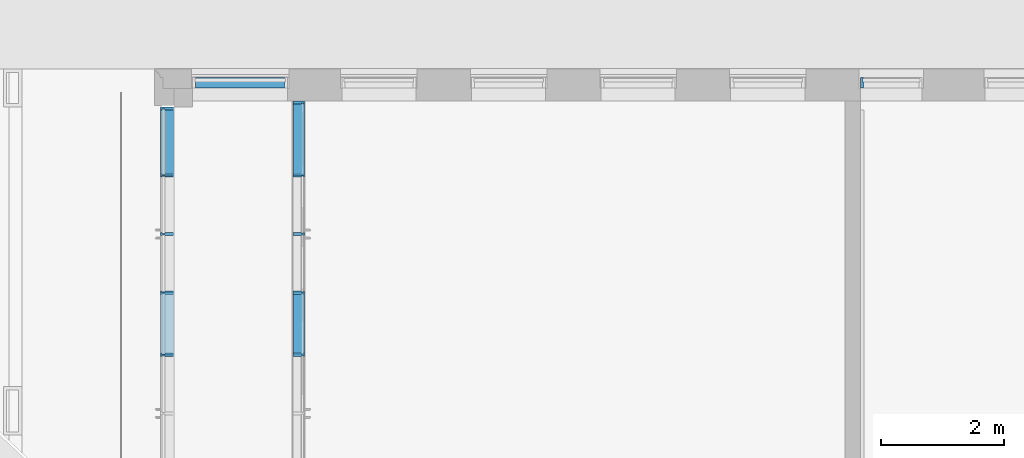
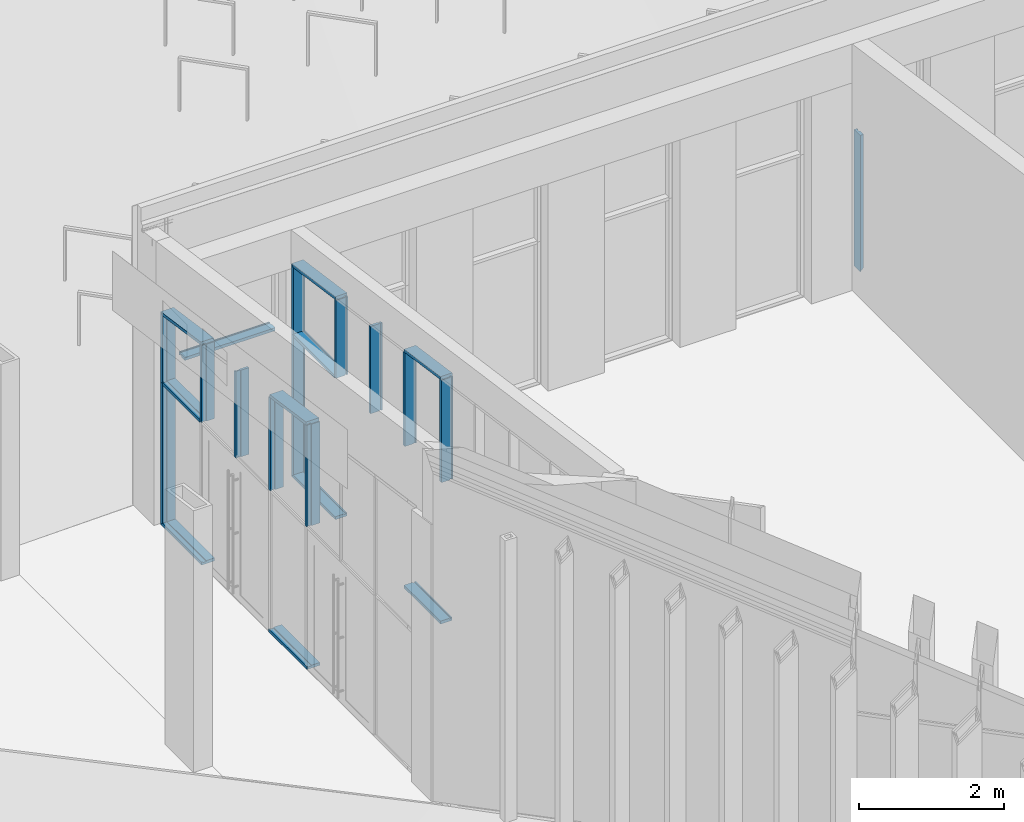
# One storey, part 67 of 246: 24 members, 4 elements without a shape of their own.
"""IFC2X3 building model written with IfcOpenShell, lengths in millimetres."""

from ifc_helpers import new_model, entity, si_unit, converted_unit, derived_unit, money_unit, direction, frame, origin_with_axes, place, context, subcontext, project, spatial, faceted_brep, material, type_object, element, aggregate, save


model = new_model("IFC2X3")

# Units and contexts
model_context = context("Model", 3, precision=0.01, world=origin_with_axes(), true_north=direction((0.0, 1.0)))
body_context = subcontext(model_context, "Body", "Model", "MODEL_VIEW")
ifc_project = project(units=[si_unit("LENGTHUNIT", "METRE", prefix="MILLI"), si_unit("AREAUNIT", "SQUARE_METRE"), si_unit("VOLUMEUNIT", "CUBIC_METRE"), converted_unit("PLANEANGLEUNIT", "DEGREE", entity("IfcPlaneAngleMeasure", 0.0174532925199), si_unit("PLANEANGLEUNIT", "RADIAN"), dimensions=[0, 0, 0, 0, 0, 0, 0]), si_unit("SOLIDANGLEUNIT", "STERADIAN"), money_unit("EUR"), converted_unit("TIMEUNIT", "Year", entity("IfcTimeMeasure", 31556926.0), si_unit("TIMEUNIT", "SECOND"), dimensions=[0, 0, 1, 0, 0, 0, 0]), si_unit("MASSUNIT", "GRAM", prefix="KILO"), si_unit("THERMODYNAMICTEMPERATUREUNIT", "DEGREE_CELSIUS"), si_unit("LUMINOUSINTENSITYUNIT", "LUMEN"), si_unit("ENERGYUNIT", "JOULE", prefix="MEGA"), derived_unit("THERMALCONDUCTANCEUNIT", [(si_unit("POWERUNIT", "WATT"), 1), (si_unit("LENGTHUNIT", "METRE"), -1), (si_unit("THERMODYNAMICTEMPERATUREUNIT", "KELVIN"), -1)]), derived_unit("SPECIFICHEATCAPACITYUNIT", [(si_unit("ENERGYUNIT", "JOULE"), 1), (si_unit("MASSUNIT", "GRAM", prefix="KILO"), -1), (si_unit("THERMODYNAMICTEMPERATUREUNIT", "KELVIN"), -1)]), derived_unit("MASSDENSITYUNIT", [(si_unit("MASSUNIT", "GRAM", prefix="KILO"), 1), (si_unit("VOLUMEUNIT", "CUBIC_METRE"), -1)])], contexts=[model_context])

# Site, building, storey
site_placement = place(None, origin_with_axes())
site = spatial("IfcSite", under=ifc_project, at=site_placement, Name="L.Koidula tn 11b", CompositionType="ELEMENT")
building_placement = place(site_placement, origin_with_axes())
building = spatial("IfcBuilding", under=site, at=building_placement, Name="Rakvere Riigigümnaasium", CompositionType="ELEMENT")
storey_placement = place(building_placement, origin_with_axes())
storey = spatial("IfcBuildingStorey", under=building, at=storey_placement, Name="1.korrus 0,00", CompositionType="ELEMENT", Elevation=0.0)

# Curtain wall, member
curtain_wall_type = type_object("IfcCurtainWallType", Name="Curtain Wall Type", PredefinedType="NOTDEFINED")
curtain_wall_1_placement = place(storey_placement, frame((15499.784937, 71934.4519938, -4.35310838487e-05), z_axis=(0.0, 0.0, 1.0), x_axis=(1.0, 0.0, 0.0)))
curtain_wall_1 = element("IfcCurtainWall", 1, at=curtain_wall_1_placement, inside=storey, type_object=curtain_wall_type, Name="KLF-08-01")
ifc_material = material(Name="Alumiiniumprofiil (RAL 7021)")
member_type_1 = type_object("IfcMemberType", Name="Transom Frame 50 x 170", PredefinedType="MULLION")
member_1_placement = place(curtain_wall_1_placement, frame((-769.750531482, 0.0, 2400.00004353), z_axis=(1.0, 0.0, 0.0), x_axis=(0.0, 0.0, 1.0)))
member_1 = element("IfcMember", 2, at=member_1_placement, type_object=member_type_1, material=ifc_material, Name="KLF-08-40-Profiilid", ObjectType="MULLION", context=body_context, shape_type="Brep", body=[
    faceted_brep([(-12.0, 26.0, 1489.50106295), (-12.0, -26.0, 1489.50106298), (-25.0, -26.0, 1489.50106298), (-25.0, -46.0, 1489.50106299), (25.0, -46.0, 1489.50106299), (25.0, -26.0, 1489.50106298), (12.0, -26.0, 1489.50106298), (12.0, 26.0, 1489.50106295), (25.0, 26.0, 1489.50106295), (25.0, 124.0, 1489.50106289), (-25.0, 124.0, 1489.50106289), (-25.0, 26.0, 1489.50106295), (-12.0, 26.0, 50.0), (-12.0, -26.0, 50.0), (-25.0, -26.0, 50.0), (-25.0, -46.0, 50.0), (25.0, -46.0, 50.0), (25.0, -26.0, 50.0), (12.0, -26.0, 50.0), (12.0, 26.0, 50.0), (25.0, 26.0, 50.0), (25.0, 124.0, 50.0), (-25.0, 124.0, 50.0), (-25.0, 26.0, 50.0)], [[[0, 1, 2, 3, 4, 5, 6, 7, 8, 9, 10, 11]], [[0, 12, 13, 1]], [[1, 13, 14, 2]], [[14, 15, 3, 2]], [[4, 3, 15, 16]], [[17, 5, 4, 16]], [[5, 17, 18, 6]], [[7, 6, 18, 19]], [[8, 7, 19, 20]], [[8, 20, 21, 9]], [[10, 9, 21, 22]], [[11, 10, 22, 23]], [[11, 23, 12, 0]], [[13, 12, 23, 22, 21, 20, 19, 18, 17, 16, 15, 14]]]),
])
aggregate(curtain_wall_1, [member_1])

curtain_wall_2_placement = place(storey_placement, frame((26049.5354659, 71934.4519938, 100.0), z_axis=(0.0, 0.0, 1.0), x_axis=(1.0, 0.0, 0.0)))
curtain_wall_2 = element("IfcCurtainWall", 3, at=curtain_wall_2_placement, inside=storey, type_object=curtain_wall_type, Name="KLF-08-03")
member_type_2 = type_object("IfcMemberType", Name="Boundary Frame 50 x 170", PredefinedType="MULLION")
member_2_placement = place(curtain_wall_2_placement, frame((-500.000038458, 0.0, 0.0), z_axis=(0.0, 0.0, 1.0), x_axis=(-1.0, 0.0, 0.0)))
member_2 = element("IfcMember", 4, at=member_2_placement, type_object=member_type_2, material=ifc_material, Name="KLF-08-47-Profiilid", ObjectType="MULLION", context=body_context, shape_type="Brep", body=[
    faceted_brep([(-37.0, 26.0, 2300.00007713), (-37.0, -26.0, 2300.00007713), (-50.0, -26.0, 2300.00007713), (-50.0, -46.0, 2300.00007713), (0.0, -46.0, 2300.00007713), (0.0, 124.0, 2300.00007713), (-50.0, 124.0, 2300.00007713), (-50.0, 26.0, 2300.00007713), (-37.0, 26.0, 37.0), (-37.0, -26.0, 37.0), (-50.0, -26.0, 50.0), (-50.0, -46.0, 50.0), (0.0, -46.0, 0.0), (0.0, 124.0, 0.0), (-50.0, 124.0, 50.0), (-50.0, 26.0, 50.0)], [[[0, 1, 2, 3, 4, 5, 6, 7]], [[1, 0, 8, 9]], [[10, 2, 1, 9]], [[2, 10, 11, 3]], [[4, 3, 11, 12]], [[5, 4, 12, 13]], [[6, 5, 13, 14]], [[15, 7, 6, 14]], [[0, 7, 15, 8]], [[8, 15, 14, 13, 12, 11, 10, 9]]]),
])
aggregate(curtain_wall_2, [member_2])

# Curtain wall, members
curtain_wall_3_placement = place(storey_placement, frame((14260.0344055, 70945.4519938, -0.000165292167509), z_axis=(0.0, 0.0, 1.0), x_axis=(1.0, 0.0, 0.0)))
curtain_wall_3 = element("IfcCurtainWall", 5, at=curtain_wall_3_placement, inside=storey, type_object=curtain_wall_type, Name="KLF-01A")
member_type_3 = type_object("IfcMemberType", Name="Boundary Frame 50 x 208", PredefinedType="MULLION")
member_3_placement = place(curtain_wall_3_placement, frame((0.0, 555.0, 0.0), z_axis=(0.0, -1.0, 0.0), x_axis=(0.0, 0.0, 1.0)))
member_3 = element("IfcMember", 6, at=member_3_placement, type_object=member_type_3, material=ifc_material, Name="KLF-42 Profiilid", ObjectType="MULLION", context=body_context, shape_type="Brep", body=[
    faceted_brep([(37.0, -27.0, 1135.0), (37.0, 27.0, 1135.0), (50.0, 27.0, 1135.0), (50.0, 48.0, 1135.0), (0.0, 48.0, 1135.0), (0.0, -160.0, 1135.0), (50.0, -160.0, 1135.0), (50.0, -27.0, 1135.0), (37.0, -27.0, 37.0), (37.0, 27.0, 37.0), (50.0, 27.0, 50.0), (50.0, 48.0, 50.0), (0.0, 48.0, 0.0), (0.0, -160.0, 0.0), (50.0, -160.0, 50.0), (50.0, -27.0, 50.0)], [[[0, 1, 2, 3, 4, 5, 6, 7]], [[1, 0, 8, 9]], [[10, 2, 1, 9]], [[2, 10, 11, 3]], [[4, 3, 11, 12]], [[5, 4, 12, 13]], [[6, 5, 13, 14]], [[15, 7, 6, 14]], [[0, 7, 15, 8]], [[8, 15, 14, 13, 12, 11, 10, 9]]]),
])
member_4_placement = place(curtain_wall_3_placement, frame((0.0, 555.0, 0.0), z_axis=(0.0, 0.0, 1.0), x_axis=(0.0, 1.0, 0.0)))
member_4 = element("IfcMember", 7, at=member_4_placement, type_object=member_type_3, material=ifc_material, Name="KLF-61 Profiilid", ObjectType="MULLION", context=body_context, shape_type="Brep", body=[
    faceted_brep([(-37.0, -27.0, 2400.00026018), (-50.0, -27.0, 2400.00026018), (-50.0, -160.0, 2400.00026018), (0.0, -160.0, 2400.00026018), (0.0, 48.0, 2400.00026018), (-50.0, 48.0, 2400.00026018), (-50.0, 27.0, 2400.00026018), (-37.0, 27.0, 2400.00026018), (-37.0, -27.0, 37.0), (-50.0, -27.0, 50.0), (-50.0, -160.0, 50.0), (0.0, -160.0, 0.0), (0.0, 48.0, 0.0), (-50.0, 48.0, 50.0), (-50.0, 27.0, 50.0), (-37.0, 27.0, 37.0)], [[[0, 1, 2, 3, 4, 5, 6, 7]], [[0, 8, 9, 1]], [[9, 10, 2, 1]], [[2, 10, 11, 3]], [[3, 11, 12, 4]], [[4, 12, 13, 5]], [[6, 5, 13, 14]], [[14, 15, 7, 6]], [[7, 15, 8, 0]], [[8, 15, 14, 13, 12, 11, 10, 9]]]),
])
member_5_placement = place(curtain_wall_3_placement, frame((0.0, 555.0, 2400.00026018), z_axis=(0.0, 0.0, 1.0), x_axis=(0.0, 1.0, 0.0)))
member_5 = element("IfcMember", 8, at=member_5_placement, type_object=member_type_3, material=ifc_material, Name="KLF-60 Profiilid", ObjectType="MULLION", context=body_context, shape_type="Brep", body=[
    faceted_brep([(-37.0, -27.0, 1155.55409247), (-50.0, -27.0, 1144.27336634), (-50.0, -160.0, 1144.27336634), (0.0, -160.0, 1187.66077453), (0.0, 48.0, 1187.66077453), (-50.0, 48.0, 1144.27336634), (-50.0, 27.0, 1144.27336634), (-37.0, 27.0, 1155.55409247), (-37.0, -27.0, 0.0), (-50.0, -27.0, 0.0), (-50.0, -160.0, 0.0), (0.0, -160.0, 0.0), (0.0, 48.0, 0.0), (-50.0, 48.0, 0.0), (-50.0, 27.0, 0.0), (-37.0, 27.0, 0.0)], [[[0, 1, 2, 3, 4, 5, 6, 7]], [[0, 8, 9, 1]], [[9, 10, 2, 1]], [[10, 11, 3, 2]], [[11, 12, 4, 3]], [[12, 13, 5, 4]], [[6, 5, 13, 14]], [[14, 15, 7, 6]], [[7, 15, 8, 0]], [[8, 15, 14, 13, 12, 11, 10, 9]]]),
])
member_6_placement = place(curtain_wall_3_placement, frame((0.0, -2455.0, 0.0), z_axis=(0.0, -1.0, 0.0), x_axis=(0.0, 0.0, 1.0)))
member_6 = element("IfcMember", 9, at=member_6_placement, type_object=member_type_3, material=ifc_material, Name="KLF-45 Profiilid", ObjectType="MULLION", context=body_context, shape_type="Brep", body=[
    faceted_brep([(37.0, -27.0, 1030.0), (37.0, 27.0, 1030.0), (50.0, 27.0, 1030.0), (50.0, 48.0, 1030.0), (0.0, 48.0, 1030.0), (0.0, -160.0, 1030.0), (50.0, -160.0, 1030.0), (50.0, -27.0, 1030.0), (37.0, -27.0, -25.0), (37.0, 27.0, -25.0), (50.0, 27.0, -25.0), (50.0, 48.0, -25.0), (0.0, 48.0, -25.0), (0.0, -160.0, -25.0), (50.0, -160.0, -25.0), (50.0, -27.0, -25.0)], [[[0, 1, 2, 3, 4, 5, 6, 7]], [[1, 0, 8, 9]], [[10, 2, 1, 9]], [[2, 10, 11, 3]], [[12, 4, 3, 11]], [[13, 5, 4, 12]], [[14, 6, 5, 13]], [[15, 7, 6, 14]], [[0, 7, 15, 8]], [[8, 15, 14, 13, 12, 11, 10, 9]]]),
])
member_7_placement = place(curtain_wall_3_placement, frame((0.0, -555.0, 3745.64729118), z_axis=(0.0, 0.990022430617, -0.140909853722), x_axis=(0.0, -0.140909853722, -0.990022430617)))
member_7 = element("IfcMember", 10, at=member_7_placement, type_object=member_type_3, material=ifc_material, Name="KLF-59 Profiilid", ObjectType="MULLION", context=body_context, shape_type="Brep", body=[
    faceted_brep([(37.0, -27.0, 1089.08003621), (37.0, 27.0, 1089.08003621), (50.0, 27.0, 1077.79931008), (50.0, 48.0, 1077.79931008), (0.0, 48.0, 1121.18671827), (0.0, -160.0, 1121.18671827), (50.0, -160.0, 1077.79931008), (50.0, -27.0, 1077.79931008), (37.0, -27.0, -1.27391497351e-06), (37.0, 27.0, -1.27391497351e-06), (50.0, 27.0, -1.27391486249e-06), (50.0, 48.0, -1.27391486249e-06), (0.0, 48.0, -1.27391486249e-06), (0.0, -160.0, -1.27391486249e-06), (50.0, -160.0, -1.27391486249e-06), (50.0, -27.0, -1.27391486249e-06)], [[[0, 1, 2, 3, 4, 5, 6, 7]], [[1, 0, 8, 9]], [[10, 2, 1, 9]], [[2, 10, 11, 3]], [[12, 4, 3, 11]], [[13, 5, 4, 12]], [[14, 6, 5, 13]], [[15, 7, 6, 14]], [[0, 7, 15, 8]], [[8, 15, 14, 13, 12, 11, 10, 9]]]),
])
member_8_placement = place(curtain_wall_3_placement, frame((0.0, -3460.0, 4159.11591891), z_axis=(0.0, 0.990022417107, -0.140909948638), x_axis=(0.0, -0.140909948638, -0.990022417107)))
member_8 = element("IfcMember", 11, at=member_8_placement, type_object=member_type_3, material=ifc_material, Name="KLF-56 Profiilid", ObjectType="MULLION", context=body_context, shape_type="Brep", body=[
    faceted_brep([(37.0, -27.0, 1015.12853289), (37.0, 27.0, 1015.12853289), (50.0, 27.0, 1015.12853289), (50.0, 48.0, 1015.12853289), (0.0, 48.0, 1015.12853289), (0.0, -160.0, 1015.12853289), (50.0, -160.0, 1015.12853289), (50.0, -27.0, 1015.12853289), (37.0, -27.0, -3.84222098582e-06), (37.0, 27.0, -3.84222098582e-06), (50.0, 27.0, -3.84222098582e-06), (50.0, 48.0, -3.84222098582e-06), (0.0, 48.0, -3.84222098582e-06), (0.0, -160.0, -3.84222098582e-06), (50.0, -160.0, -3.84222098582e-06), (50.0, -27.0, -3.84222098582e-06)], [[[0, 1, 2, 3, 4, 5, 6, 7]], [[1, 0, 8, 9]], [[10, 2, 1, 9]], [[2, 10, 11, 3]], [[12, 4, 3, 11]], [[13, 5, 4, 12]], [[14, 6, 5, 13]], [[15, 7, 6, 14]], [[0, 7, 15, 8]], [[8, 15, 14, 13, 12, 11, 10, 9]]]),
])
member_type_4 = type_object("IfcMemberType", Name="Mullion Frame 50 x 208", PredefinedType="MULLION")
member_9_placement = place(curtain_wall_3_placement, frame((0.0, -3460.0, 2400.00026018), z_axis=(0.0, 0.0, 1.0), x_axis=(0.0, 1.0, 0.0)))
member_9 = element("IfcMember", 12, at=member_9_placement, type_object=member_type_4, material=ifc_material, Name="KLF-01 Profiilid", ObjectType="MULLION", context=body_context, shape_type="Brep", body=[
    faceted_brep([(-12.0, -27.0, 1710.31971173), (-25.0, -27.0, 1712.17000046), (-25.0, -160.0, 1712.17000046), (25.0, -160.0, 1705.05350537), (25.0, -27.0, 1705.05350537), (12.0, -27.0, 1706.90379409), (12.0, 27.0, 1706.90379409), (25.0, 27.0, 1705.05350537), (25.0, 48.0, 1705.05350537), (-25.0, 48.0, 1712.17000046), (-25.0, 27.0, 1712.17000046), (-12.0, 27.0, 1710.31971173), (-12.0, -27.0, 0.0), (-25.0, -27.0, 0.0), (-25.0, -160.0, 0.0), (25.0, -160.0, 0.0), (25.0, -27.0, 0.0), (12.0, -27.0, 0.0), (12.0, 27.0, 0.0), (25.0, 27.0, 0.0), (25.0, 48.0, 0.0), (-25.0, 48.0, 0.0), (-25.0, 27.0, 0.0), (-12.0, 27.0, 0.0)], [[[0, 1, 2, 3, 4, 5, 6, 7, 8, 9, 10, 11]], [[1, 0, 12, 13]], [[1, 13, 14, 2]], [[3, 2, 14, 15]], [[4, 3, 15, 16]], [[4, 16, 17, 5]], [[5, 17, 18, 6]], [[7, 6, 18, 19]], [[19, 20, 8, 7]], [[9, 8, 20, 21]], [[22, 10, 9, 21]], [[11, 10, 22, 23]], [[0, 11, 23, 12]], [[23, 22, 21, 20, 19, 18, 17, 16, 15, 14, 13, 12]]]),
])
member_10_placement = place(curtain_wall_3_placement, frame((0.0, -555.0, 2400.00026018), z_axis=(0.0, 0.0, 1.0), x_axis=(0.0, 1.0, 0.0)))
member_10 = element("IfcMember", 13, at=member_10_placement, type_object=member_type_4, material=ifc_material, Name="KLF-11 Profiilid", ObjectType="MULLION", context=body_context, shape_type="Brep", body=[
    faceted_brep([(-12.0, -27.0, 1296.85108456), (-25.0, -27.0, 1298.70137472), (-25.0, -160.0, 1298.70137472), (25.0, -160.0, 1291.58487409), (25.0, -27.0, 1291.58487409), (12.0, -27.0, 1293.43516425), (12.0, 27.0, 1293.43516425), (25.0, 27.0, 1291.58487409), (25.0, 48.0, 1291.58487409), (-25.0, 48.0, 1298.70137472), (-25.0, 27.0, 1298.70137472), (-12.0, 27.0, 1296.85108456), (-12.0, -27.0, 0.0), (-25.0, -27.0, 0.0), (-25.0, -160.0, 0.0), (25.0, -160.0, 0.0), (25.0, -27.0, 0.0), (12.0, -27.0, 0.0), (12.0, 27.0, 0.0), (25.0, 27.0, 0.0), (25.0, 48.0, 0.0), (-25.0, 48.0, 0.0), (-25.0, 27.0, 0.0), (-12.0, 27.0, 0.0)], [[[0, 1, 2, 3, 4, 5, 6, 7, 8, 9, 10, 11]], [[1, 0, 12, 13]], [[1, 13, 14, 2]], [[3, 2, 14, 15]], [[4, 3, 15, 16]], [[4, 16, 17, 5]], [[5, 17, 18, 6]], [[7, 6, 18, 19]], [[19, 20, 8, 7]], [[9, 8, 20, 21]], [[22, 10, 9, 21]], [[11, 10, 22, 23]], [[0, 11, 23, 12]], [[23, 22, 21, 20, 19, 18, 17, 16, 15, 14, 13, 12]]]),
])
member_11_placement = place(curtain_wall_3_placement, frame((0.0, -1505.0, 2400.00026018), z_axis=(0.0, 0.0, 1.0), x_axis=(0.0, 1.0, 0.0)))
member_11 = element("IfcMember", 14, at=member_11_placement, type_object=member_type_4, material=ifc_material, Name="KLF-12 Profiilid", ObjectType="MULLION", context=body_context, shape_type="Brep", body=[
    faceted_brep([(-12.0, -27.0, 1432.06459614), (-25.0, -27.0, 1433.91488486), (-25.0, -160.0, 1433.91488486), (25.0, -160.0, 1426.79838977), (25.0, -27.0, 1426.79838977), (12.0, -27.0, 1428.6486785), (12.0, 27.0, 1428.6486785), (25.0, 27.0, 1426.79838977), (25.0, 48.0, 1426.79838977), (-25.0, 48.0, 1433.91488486), (-25.0, 27.0, 1433.91488486), (-12.0, 27.0, 1432.06459614), (-12.0, -27.0, -25.0), (-25.0, -27.0, -25.0), (-25.0, -160.0, -25.0), (25.0, -160.0, -25.0), (25.0, -27.0, -25.0), (12.0, -27.0, -25.0), (12.0, 27.0, -25.0), (25.0, 27.0, -25.0), (25.0, 48.0, -25.0), (-25.0, 48.0, -25.0), (-25.0, 27.0, -25.0), (-12.0, 27.0, -25.0)], [[[0, 1, 2, 3, 4, 5, 6, 7, 8, 9, 10, 11]], [[1, 0, 12, 13]], [[1, 13, 14, 2]], [[3, 2, 14, 15]], [[4, 3, 15, 16]], [[4, 16, 17, 5]], [[5, 17, 18, 6]], [[7, 6, 18, 19]], [[19, 20, 8, 7]], [[9, 8, 20, 21]], [[22, 10, 9, 21]], [[11, 10, 22, 23]], [[0, 11, 23, 12]], [[23, 22, 21, 20, 19, 18, 17, 16, 15, 14, 13, 12]]]),
])
member_12_placement = place(curtain_wall_3_placement, frame((0.0, -2455.0, 2400.00026018), z_axis=(0.0, 0.0, 1.0), x_axis=(0.0, 1.0, 0.0)))
member_12 = element("IfcMember", 15, at=member_12_placement, type_object=member_type_4, material=ifc_material, Name="KLF-13 Profiilid", ObjectType="MULLION", context=body_context, shape_type="Brep", body=[
    faceted_brep([(-12.0, -27.0, 1567.27800362), (-25.0, -27.0, 1569.12829438), (-25.0, -160.0, 1569.12829438), (25.0, -160.0, 1562.01179145), (25.0, -27.0, 1562.01179145), (12.0, -27.0, 1563.86208221), (12.0, 27.0, 1563.86208221), (25.0, 27.0, 1562.01179145), (25.0, 48.0, 1562.01179145), (-25.0, 48.0, 1569.12829438), (-25.0, 27.0, 1569.12829438), (-12.0, 27.0, 1567.27800362), (-12.0, -27.0, 0.0), (-25.0, -27.0, 0.0), (-25.0, -160.0, 0.0), (25.0, -160.0, 0.0), (25.0, -27.0, 0.0), (12.0, -27.0, 0.0), (12.0, 27.0, 0.0), (25.0, 27.0, 0.0), (25.0, 48.0, 0.0), (-25.0, 48.0, 0.0), (-25.0, 27.0, 0.0), (-12.0, 27.0, 0.0)], [[[0, 1, 2, 3, 4, 5, 6, 7, 8, 9, 10, 11]], [[1, 0, 12, 13]], [[1, 13, 14, 2]], [[3, 2, 14, 15]], [[4, 3, 15, 16]], [[4, 16, 17, 5]], [[5, 17, 18, 6]], [[7, 6, 18, 19]], [[19, 20, 8, 7]], [[9, 8, 20, 21]], [[22, 10, 9, 21]], [[11, 10, 22, 23]], [[0, 11, 23, 12]], [[23, 22, 21, 20, 19, 18, 17, 16, 15, 14, 13, 12]]]),
])
member_type_5 = type_object("IfcMemberType", Name="Transom Frame 50 x 208", PredefinedType="MULLION")
member_13_placement = place(curtain_wall_3_placement, frame((0.0, 555.0, 2400.00026018), z_axis=(0.0, -1.0, 0.0), x_axis=(0.0, 0.0, 1.0)))
member_13 = element("IfcMember", 16, at=member_13_placement, type_object=member_type_5, material=ifc_material, Name="KLF-01 Profiilid", ObjectType="MULLION", context=body_context, shape_type="Brep", body=[
    faceted_brep([(-12.0, -27.0, 1085.0), (-25.0, -27.0, 1085.0), (-25.0, -160.0, 1085.0), (25.0, -160.0, 1085.0), (25.0, -27.0, 1085.0), (12.0, -27.0, 1085.0), (12.0, 27.0, 1085.0), (25.0, 27.0, 1085.0), (25.0, 48.0, 1085.0), (-25.0, 48.0, 1085.0), (-25.0, 27.0, 1085.0), (-12.0, 27.0, 1085.0), (-12.0, -27.0, 50.0), (-25.0, -27.0, 50.0), (-25.0, -160.0, 50.0), (25.0, -160.0, 50.0), (25.0, -27.0, 50.0), (12.0, -27.0, 50.0), (12.0, 27.0, 50.0), (25.0, 27.0, 50.0), (25.0, 48.0, 50.0), (-25.0, 48.0, 50.0), (-25.0, 27.0, 50.0), (-12.0, 27.0, 50.0)], [[[0, 1, 2, 3, 4, 5, 6, 7, 8, 9, 10, 11]], [[1, 0, 12, 13]], [[1, 13, 14, 2]], [[2, 14, 15, 3]], [[4, 3, 15, 16]], [[4, 16, 17, 5]], [[5, 17, 18, 6]], [[7, 6, 18, 19]], [[19, 20, 8, 7]], [[8, 20, 21, 9]], [[22, 10, 9, 21]], [[11, 10, 22, 23]], [[0, 11, 23, 12]], [[23, 22, 21, 20, 19, 18, 17, 16, 15, 14, 13, 12]]]),
])
aggregate(curtain_wall_3, [member_3, member_4, member_13, member_5, member_6, member_9, member_10, member_11, member_12, member_7, member_8])

curtain_wall_4_placement = place(storey_placement, frame((16510.0495753, 70995.4517615, -0.000456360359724), z_axis=(0.0, 0.0, 1.0), x_axis=(1.0, 0.0, 0.0)))
curtain_wall_4 = element("IfcCurtainWall", 17, at=curtain_wall_4_placement, inside=storey, type_object=curtain_wall_type, Name="KLF-01B")
member_type_6 = type_object("IfcMemberType", Name="Boundary Frame 50 x 188", PredefinedType="MULLION")
member_14_placement = place(curtain_wall_4_placement, frame((0.0, 604.999898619, 0.0), z_axis=(0.0, -1.0, 0.0), x_axis=(0.0, 0.0, 1.0)))
member_14 = element("IfcMember", 18, at=member_14_placement, type_object=member_type_6, material=ifc_material, Name="KLF-41 Profiilid", ObjectType="MULLION", context=body_context, shape_type="Brep", body=[
    faceted_brep([(37.0, 15.0, 1209.9996664), (50.0, 15.0, 1209.9996664), (50.0, 153.0, 1209.9996664), (0.0, 153.0, 1209.9996664), (0.0, -35.0, 1209.9996664), (50.0, -35.0, 1209.9996664), (50.0, -15.0, 1209.9996664), (37.0, -15.0, 1209.9996664), (37.0, 15.0, 37.0000040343), (50.0, 15.0, 50.0000054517), (50.0, 153.0, 50.0000054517), (0.0, 153.0, 0.0), (0.0, -35.0, 0.0), (50.0, -35.0, 50.0000054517), (50.0, -15.0, 50.0000054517), (37.0, -15.0, 37.0000040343)], [[[0, 1, 2, 3, 4, 5, 6, 7]], [[0, 8, 9, 1]], [[9, 10, 2, 1]], [[2, 10, 11, 3]], [[3, 11, 12, 4]], [[4, 12, 13, 5]], [[6, 5, 13, 14]], [[14, 15, 7, 6]], [[7, 15, 8, 0]], [[8, 15, 14, 13, 12, 11, 10, 9]]]),
])
member_15_placement = place(curtain_wall_4_placement, frame((0.0, -2504.99976778, 0.0), z_axis=(0.0, -1.0, 0.0), x_axis=(0.0, 0.0, 1.0)))
member_15 = element("IfcMember", 19, at=member_15_placement, type_object=member_type_6, material=ifc_material, Name="KLF-44 Profiilid", ObjectType="MULLION", context=body_context, shape_type="Brep", body=[
    faceted_brep([(37.0, 15.0, 1005.0), (50.0, 15.0, 1005.0), (50.0, 153.0, 1005.0), (0.0, 153.0, 1005.0), (0.0, -35.0, 1005.0), (50.0, -35.0, 1005.0), (50.0, -15.0, 1005.0), (37.0, -15.0, 1005.0), (37.0, 15.0, 0.0), (50.0, 15.0, 0.0), (50.0, 153.0, 0.0), (0.0, 153.0, 0.0), (0.0, -35.0, 0.0), (50.0, -35.0, 0.0), (50.0, -15.0, 0.0), (37.0, -15.0, 0.0)], [[[0, 1, 2, 3, 4, 5, 6, 7]], [[0, 8, 9, 1]], [[9, 10, 2, 1]], [[10, 11, 3, 2]], [[11, 12, 4, 3]], [[12, 13, 5, 4]], [[6, 5, 13, 14]], [[14, 15, 7, 6]], [[7, 15, 8, 0]], [[8, 15, 14, 13, 12, 11, 10, 9]]]),
])
member_16_placement = place(curtain_wall_4_placement, frame((0.0, 604.999636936, 2400.00029107), z_axis=(0.0, 1.09034634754e-07, -1.0), x_axis=(0.0, -1.0, -1.09034634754e-07)))
member_16 = element("IfcMember", 20, at=member_16_placement, type_object=member_type_6, material=ifc_material, Name="KLF-40 Profiilid", ObjectType="MULLION", context=body_context, shape_type="Brep", body=[
    faceted_brep([(37.0002576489, 15.0, 2363.000283), (50.0002562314, 15.0, 2350.00028016), (50.0002562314, 153.0, 2350.00028016), (0.000261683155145, 153.0, 2400.00029107), (0.000261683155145, -35.0, 2400.00029107), (50.0002562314, -35.0, 2350.00028016), (50.0002562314, -15.0, 2350.00028016), (37.0002576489, -15.0, 2363.000283), (37.0, 15.0, -1.20974736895e-05), (50.0, 15.0, -1.35149238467e-05), (50.0, 153.0, -1.35149238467e-05), (0.0, 153.0, -8.06319233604e-06), (0.0, -35.0, -8.06319233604e-06), (50.0, -35.0, -1.35149238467e-05), (50.0, -15.0, -1.35149238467e-05), (37.0, -15.0, -1.20974736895e-05)], [[[0, 1, 2, 3, 4, 5, 6, 7]], [[0, 8, 9, 1]], [[9, 10, 2, 1]], [[10, 11, 3, 2]], [[11, 12, 4, 3]], [[12, 13, 5, 4]], [[6, 5, 13, 14]], [[14, 15, 7, 6]], [[7, 15, 8, 0]], [[8, 15, 14, 13, 12, 11, 10, 9]]]),
])
member_17_placement = place(curtain_wall_4_placement, frame((0.0, 604.99989039, 3587.17694365), z_axis=(0.0, -2.13493071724e-07, -1.0), x_axis=(0.0, -1.0, 2.13493071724e-07)))
member_17 = element("IfcMember", 21, at=member_17_placement, type_object=member_type_6, material=ifc_material, Name="KLF-61 Profiilid", ObjectType="MULLION", context=body_context, shape_type="Brep", body=[
    faceted_brep([(36.999746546, 15.0, 1187.17666855), (49.999746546, 15.0, 1187.17667132), (49.999746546, 153.0, 1187.17667132), (-0.00025345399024, 153.0, 1187.17666065), (-0.00025345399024, -35.0, 1187.17666065), (49.999746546, -35.0, 1187.17667132), (49.999746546, -15.0, 1187.17667132), (36.999746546, -15.0, 1187.17666855), (36.9999931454, 15.0, 32.1069801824), (49.999990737, 15.0, 43.3878110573), (49.999990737, 153.0, 43.3878110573), (0.0, 153.0, 0.0), (0.0, -35.0, 0.0), (49.999990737, -35.0, 43.3878110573), (49.999990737, -15.0, 43.3878110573), (36.9999931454, -15.0, 32.1069801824)], [[[0, 1, 2, 3, 4, 5, 6, 7]], [[0, 8, 9, 1]], [[9, 10, 2, 1]], [[2, 10, 11, 3]], [[3, 11, 12, 4]], [[4, 12, 13, 5]], [[6, 5, 13, 14]], [[14, 15, 7, 6]], [[7, 15, 8, 0]], [[8, 15, 14, 13, 12, 11, 10, 9]]]),
])
member_18_placement = place(curtain_wall_4_placement, frame((0.0, -604.999767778, 3759.38536334), z_axis=(0.0, 0.990023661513, -0.140901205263), x_axis=(0.0, -0.140901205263, -0.990023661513)))
member_18 = element("IfcMember", 22, at=member_18_placement, type_object=member_type_6, material=ifc_material, Name="KLF-60 Profiilid", ObjectType="MULLION", context=body_context, shape_type="Brep", body=[
    faceted_brep([(37.0, 15.0, 1190.08569362), (50.0, 15.0, 1178.80486552), (50.0, 153.0, 1178.80486552), (0.0, 153.0, 1222.1926659), (0.0, -35.0, 1222.1926659), (50.0, -35.0, 1178.80486552), (50.0, -15.0, 1178.80486552), (37.0, -15.0, 1190.08569362), (37.0, 15.0, -8.24087464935e-08), (50.0, 15.0, -8.24229573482e-08), (50.0, 153.0, -8.24229573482e-08), (0.0, 153.0, -8.24087464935e-08), (0.0, -35.0, -8.24087464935e-08), (50.0, -35.0, -8.24229573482e-08), (50.0, -15.0, -8.24229573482e-08), (37.0, -15.0, -8.24087464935e-08)], [[[0, 1, 2, 3, 4, 5, 6, 7]], [[0, 8, 9, 1]], [[9, 10, 2, 1]], [[10, 11, 3, 2]], [[11, 12, 4, 3]], [[12, 13, 5, 4]], [[6, 5, 13, 14]], [[14, 15, 7, 6]], [[7, 15, 8, 0]], [[8, 15, 14, 13, 12, 11, 10, 9]]]),
])
member_19_placement = place(curtain_wall_4_placement, frame((0.0, -3509.99976778, 4172.82804908), z_axis=(0.0, 0.990023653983, -0.140901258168), x_axis=(0.0, -0.140901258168, -0.990023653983)))
member_19 = element("IfcMember", 23, at=member_19_placement, type_object=member_type_6, material=ifc_material, Name="KLF-57 Profiilid", ObjectType="MULLION", context=body_context, shape_type="Brep", body=[
    faceted_brep([(37.0, 15.0, 1015.12726259), (50.0, 15.0, 1015.12726259), (50.0, 153.0, 1015.12726259), (0.0, 153.0, 1015.12726259), (0.0, -35.0, 1015.12726259), (50.0, -35.0, 1015.12726259), (50.0, -15.0, 1015.12726259), (37.0, -15.0, 1015.12726259), (37.0, 15.0, -1.78246750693e-06), (50.0, 15.0, -1.78248171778e-06), (50.0, 153.0, -1.78248171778e-06), (0.0, 153.0, -1.78248171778e-06), (0.0, -35.0, -1.78248171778e-06), (50.0, -35.0, -1.78248171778e-06), (50.0, -15.0, -1.78248171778e-06), (37.0, -15.0, -1.78246750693e-06)], [[[0, 1, 2, 3, 4, 5, 6, 7]], [[0, 8, 9, 1]], [[9, 10, 2, 1]], [[10, 11, 3, 2]], [[11, 12, 4, 3]], [[12, 13, 5, 4]], [[6, 5, 13, 14]], [[14, 15, 7, 6]], [[7, 15, 8, 0]], [[8, 15, 14, 13, 12, 11, 10, 9]]]),
])
member_type_7 = type_object("IfcMemberType", Name="Mullion Frame 50 x 188", PredefinedType="MULLION")
member_20_placement = place(curtain_wall_4_placement, frame((0.0, -604.999767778, 2400.00029107), z_axis=(0.0, 0.0, 1.0), x_axis=(0.0, 1.0, 0.0)))
member_20 = element("IfcMember", 24, at=member_20_placement, type_object=member_type_7, material=ifc_material, Name="KLF-46 Profiilid", ObjectType="MULLION", context=body_context, shape_type="Brep", body=[
    faceted_brep([(-12.0, 15.0, 1310.58908143), (-12.0, -15.0, 1310.58908143), (-25.0, -15.0, 1312.4392551), (-25.0, -35.0, 1312.4392551), (25.0, -35.0, 1305.32320253), (25.0, -15.0, 1305.32320253), (12.0, -15.0, 1307.1733762), (12.0, 15.0, 1307.1733762), (25.0, 15.0, 1305.32320253), (25.0, 153.0, 1305.32320253), (-25.0, 153.0, 1312.4392551), (-25.0, 15.0, 1312.4392551), (-12.0, 15.0, 0.0), (-12.0, -15.0, 0.0), (-25.0, -15.0, 0.0), (-25.0, -35.0, 0.0), (25.0, -35.0, 0.0), (25.0, -15.0, 0.0), (12.0, -15.0, 0.0), (12.0, 15.0, 0.0), (25.0, 15.0, 0.0), (25.0, 153.0, 0.0), (-25.0, 153.0, 0.0), (-25.0, 15.0, 0.0)], [[[0, 1, 2, 3, 4, 5, 6, 7, 8, 9, 10, 11]], [[0, 12, 13, 1]], [[1, 13, 14, 2]], [[14, 15, 3, 2]], [[3, 15, 16, 4]], [[17, 5, 4, 16]], [[5, 17, 18, 6]], [[7, 6, 18, 19]], [[8, 7, 19, 20]], [[8, 20, 21, 9]], [[9, 21, 22, 10]], [[11, 10, 22, 23]], [[11, 23, 12, 0]], [[13, 12, 23, 22, 21, 20, 19, 18, 17, 16, 15, 14]]]),
])
member_21_placement = place(curtain_wall_4_placement, frame((0.0, -1554.99976778, 2400.00029107), z_axis=(0.0, 0.0, 1.0), x_axis=(0.0, 1.0, 0.0)))
member_21 = element("IfcMember", 25, at=member_21_placement, type_object=member_type_7, material=ifc_material, Name="KLF-47 Profiilid", ObjectType="MULLION", context=body_context, shape_type="Brep", body=[
    faceted_brep([(-12.0, 15.0, 1445.79408033), (-12.0, -15.0, 1445.79408033), (-25.0, -15.0, 1447.64425372), (-25.0, -35.0, 1447.64425372), (25.0, -35.0, 1440.52820222), (25.0, -15.0, 1440.52820222), (12.0, -15.0, 1442.37837561), (12.0, 15.0, 1442.37837561), (25.0, 15.0, 1440.52820222), (25.0, 153.0, 1440.52820222), (-25.0, 153.0, 1447.64425372), (-25.0, 15.0, 1447.64425372), (-12.0, 15.0, -25.0), (-12.0, -15.0, -25.0), (-25.0, -15.0, -25.0), (-25.0, -35.0, -25.0), (25.0, -35.0, -25.0), (25.0, -15.0, -25.0), (12.0, -15.0, -25.0), (12.0, 15.0, -25.0), (25.0, 15.0, -25.0), (25.0, 153.0, -25.0), (-25.0, 153.0, -25.0), (-25.0, 15.0, -25.0)], [[[0, 1, 2, 3, 4, 5, 6, 7, 8, 9, 10, 11]], [[0, 12, 13, 1]], [[1, 13, 14, 2]], [[14, 15, 3, 2]], [[3, 15, 16, 4]], [[17, 5, 4, 16]], [[5, 17, 18, 6]], [[7, 6, 18, 19]], [[8, 7, 19, 20]], [[8, 20, 21, 9]], [[9, 21, 22, 10]], [[11, 10, 22, 23]], [[11, 23, 12, 0]], [[13, 12, 23, 22, 21, 20, 19, 18, 17, 16, 15, 14]]]),
])
member_22_placement = place(curtain_wall_4_placement, frame((0.0, -2504.99976778, 2400.00029107), z_axis=(0.0, 0.0, 1.0), x_axis=(0.0, 1.0, 0.0)))
member_22 = element("IfcMember", 26, at=member_22_placement, type_object=member_type_7, material=ifc_material, Name="KLF-48 Profiilid", ObjectType="MULLION", context=body_context, shape_type="Brep", body=[
    faceted_brep([(-12.0, 15.0, 1580.99905918), (-12.0, -15.0, 1580.99905918), (-25.0, -15.0, 1582.84923351), (-25.0, -35.0, 1582.84923351), (25.0, -35.0, 1575.73317838), (25.0, -15.0, 1575.73317838), (12.0, -15.0, 1577.58335271), (12.0, 15.0, 1577.58335271), (25.0, 15.0, 1575.73317838), (25.0, 153.0, 1575.73317838), (-25.0, 153.0, 1582.84923351), (-25.0, 15.0, 1582.84923351), (-12.0, 15.0, 0.0), (-12.0, -15.0, 0.0), (-25.0, -15.0, 0.0), (-25.0, -35.0, 0.0), (25.0, -35.0, 0.0), (25.0, -15.0, 0.0), (12.0, -15.0, 0.0), (12.0, 15.0, 0.0), (25.0, 15.0, 0.0), (25.0, 153.0, 0.0), (-25.0, 153.0, 0.0), (-25.0, 15.0, 0.0)], [[[0, 1, 2, 3, 4, 5, 6, 7, 8, 9, 10, 11]], [[0, 12, 13, 1]], [[1, 13, 14, 2]], [[14, 15, 3, 2]], [[3, 15, 16, 4]], [[17, 5, 4, 16]], [[5, 17, 18, 6]], [[7, 6, 18, 19]], [[8, 7, 19, 20]], [[8, 20, 21, 9]], [[9, 21, 22, 10]], [[11, 10, 22, 23]], [[11, 23, 12, 0]], [[13, 12, 23, 22, 21, 20, 19, 18, 17, 16, 15, 14]]]),
])
member_23_placement = place(curtain_wall_4_placement, frame((0.0, -3509.99976778, 2400.00029107), z_axis=(0.0, 0.0, 1.0), x_axis=(0.0, 1.0, 0.0)))
member_23 = element("IfcMember", 27, at=member_23_placement, type_object=member_type_7, material=ifc_material, Name="KLF-49 Profiilid", ObjectType="MULLION", context=body_context, shape_type="Brep", body=[
    faceted_brep([(-12.0, 15.0, 1724.03176706), (-12.0, -15.0, 1724.03176706), (-25.0, -15.0, 1725.88194045), (-25.0, -35.0, 1725.88194045), (25.0, -35.0, 1718.76588895), (25.0, -15.0, 1718.76588895), (12.0, -15.0, 1720.61606234), (12.0, 15.0, 1720.61606234), (25.0, 15.0, 1718.76588895), (25.0, 153.0, 1718.76588895), (-25.0, 153.0, 1725.88194045), (-25.0, 15.0, 1725.88194045), (-12.0, 15.0, 0.0), (-12.0, -15.0, 0.0), (-25.0, -15.0, 0.0), (-25.0, -35.0, 0.0), (25.0, -35.0, 0.0), (25.0, -15.0, 0.0), (12.0, -15.0, 0.0), (12.0, 15.0, 0.0), (25.0, 15.0, 0.0), (25.0, 153.0, 0.0), (-25.0, 153.0, 0.0), (-25.0, 15.0, 0.0)], [[[0, 1, 2, 3, 4, 5, 6, 7, 8, 9, 10, 11]], [[0, 12, 13, 1]], [[1, 13, 14, 2]], [[14, 15, 3, 2]], [[3, 15, 16, 4]], [[17, 5, 4, 16]], [[5, 17, 18, 6]], [[7, 6, 18, 19]], [[8, 7, 19, 20]], [[8, 20, 21, 9]], [[9, 21, 22, 10]], [[11, 10, 22, 23]], [[11, 23, 12, 0]], [[13, 12, 23, 22, 21, 20, 19, 18, 17, 16, 15, 14]]]),
])
member_type_8 = type_object("IfcMemberType", Name="Transom Frame 50 x 188", PredefinedType="MULLION")
member_24_placement = place(curtain_wall_4_placement, frame((0.0, 604.999636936, 2400.00029107), z_axis=(0.0, -1.0, 0.0), x_axis=(0.0, 0.0, 1.0)))
member_24 = element("IfcMember", 28, at=member_24_placement, type_object=member_type_8, material=ifc_material, Name="KLF-01 Profiilid", ObjectType="MULLION", context=body_context, shape_type="Brep", body=[
    faceted_brep([(-12.0, 15.0, 1184.99940471), (-12.0, -15.0, 1184.99940471), (-25.0, -15.0, 1184.99940471), (-25.0, -35.0, 1184.99940471), (25.0, -35.0, 1184.99940471), (25.0, -15.0, 1184.99940471), (12.0, -15.0, 1184.99940471), (12.0, 15.0, 1184.99940471), (25.0, 15.0, 1184.99940471), (25.0, 153.0, 1184.99940471), (-25.0, 153.0, 1184.99940471), (-25.0, 15.0, 1184.99940471), (-12.0, 15.0, 50.0000032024), (-12.0, -15.0, 49.9999967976), (-25.0, -15.0, 49.9999967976), (-25.0, -35.0, 49.9999925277), (25.0, -35.0, 49.9999925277), (25.0, -15.0, 49.9999967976), (12.0, -15.0, 49.9999967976), (12.0, 15.0, 50.0000032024), (25.0, 15.0, 50.0000032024), (25.0, 153.0, 50.0000326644), (-25.0, 153.0, 50.0000326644), (-25.0, 15.0, 50.0000032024)], [[[0, 1, 2, 3, 4, 5, 6, 7, 8, 9, 10, 11]], [[0, 12, 13, 1]], [[1, 13, 14, 2]], [[14, 15, 3, 2]], [[4, 3, 15, 16]], [[17, 5, 4, 16]], [[5, 17, 18, 6]], [[7, 6, 18, 19]], [[8, 7, 19, 20]], [[8, 20, 21, 9]], [[10, 9, 21, 22]], [[11, 10, 22, 23]], [[11, 23, 12, 0]], [[13, 12, 23, 22, 21, 20, 19, 18, 17, 16, 15, 14]]]),
])
aggregate(curtain_wall_4, [member_14, member_24, member_15, member_16, member_17, member_20, member_21, member_22, member_23, member_18, member_19])

save(model, "model.ifc")
